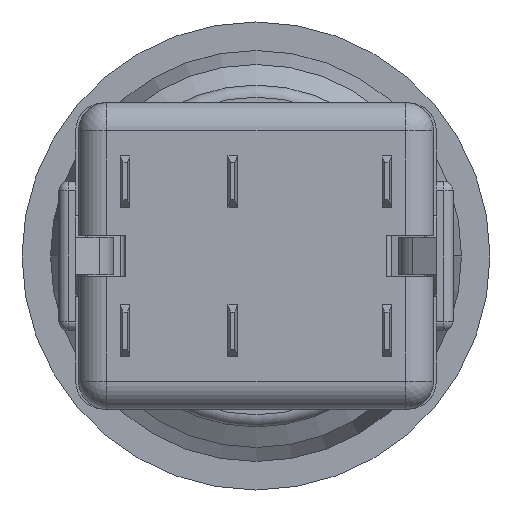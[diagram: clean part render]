
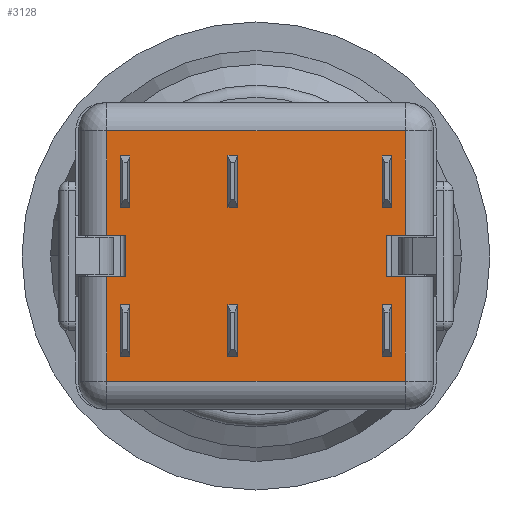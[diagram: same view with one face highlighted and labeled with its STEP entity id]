
A CAD part, front view. The second image highlights one B-rep face of the part: STEP entity #3128.
In plain terms, the highlighted planar face has unit normal (0, -1, 0).
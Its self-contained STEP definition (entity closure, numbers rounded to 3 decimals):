
#39=DIRECTION('',(1.,0.,0.));
#40=VECTOR('',#39,1.);
#41=CARTESIAN_POINT('',(0.,-24.8,-9.1));
#42=LINE('',#41,#40);
#43=DIRECTION('',(0.,0.,1.));
#44=VECTOR('',#43,2.2);
#45=CARTESIAN_POINT('',(1.,-24.8,-9.1));
#46=LINE('',#45,#44);
#47=DIRECTION('',(1.,0.,0.));
#48=VECTOR('',#47,1.);
#49=CARTESIAN_POINT('',(0.,-24.8,-6.9));
#50=LINE('',#49,#48);
#51=DIRECTION('',(-1.,0.,0.));
#52=VECTOR('',#51,16.);
#53=CARTESIAN_POINT('',(16.,-24.8,-1.3));
#54=LINE('',#53,#52);
#55=DIRECTION('',(-1.,0.,0.));
#56=VECTOR('',#55,1.);
#57=CARTESIAN_POINT('',(16.,-24.8,-6.9));
#58=LINE('',#57,#56);
#59=DIRECTION('',(0.,0.,1.));
#60=VECTOR('',#59,2.2);
#61=CARTESIAN_POINT('',(15.,-24.8,-9.1));
#62=LINE('',#61,#60);
#63=DIRECTION('',(-1.,0.,0.));
#64=VECTOR('',#63,1.);
#65=CARTESIAN_POINT('',(16.,-24.8,-9.1));
#66=LINE('',#65,#64);
#67=DIRECTION('',(1.,0.,0.));
#68=VECTOR('',#67,16.);
#69=CARTESIAN_POINT('',(0.,-24.8,-14.7));
#70=LINE('',#69,#68);
#71=DIRECTION('',(1.,0.,0.));
#72=VECTOR('',#71,0.5);
#73=CARTESIAN_POINT('',(0.75,-24.8,-5.4));
#74=LINE('',#73,#72);
#75=DIRECTION('',(0.,0.,1.));
#76=VECTOR('',#75,2.8);
#77=CARTESIAN_POINT('',(1.25,-24.8,-5.4));
#78=LINE('',#77,#76);
#79=DIRECTION('',(1.,0.,0.));
#80=VECTOR('',#79,0.5);
#81=CARTESIAN_POINT('',(0.75,-24.8,-2.6));
#82=LINE('',#81,#80);
#83=DIRECTION('',(0.,0.,1.));
#84=VECTOR('',#83,2.8);
#85=CARTESIAN_POINT('',(0.75,-24.8,-5.4));
#86=LINE('',#85,#84);
#87=DIRECTION('',(1.,0.,0.));
#88=VECTOR('',#87,0.5);
#89=CARTESIAN_POINT('',(0.75,-24.8,-13.4));
#90=LINE('',#89,#88);
#91=DIRECTION('',(0.,0.,1.));
#92=VECTOR('',#91,2.8);
#93=CARTESIAN_POINT('',(1.25,-24.8,-13.4));
#94=LINE('',#93,#92);
#95=DIRECTION('',(1.,0.,0.));
#96=VECTOR('',#95,0.5);
#97=CARTESIAN_POINT('',(0.75,-24.8,-10.6));
#98=LINE('',#97,#96);
#99=DIRECTION('',(0.,0.,1.));
#100=VECTOR('',#99,2.8);
#101=CARTESIAN_POINT('',(0.75,-24.8,-13.4));
#102=LINE('',#101,#100);
#103=DIRECTION('',(1.,0.,0.));
#104=VECTOR('',#103,0.5);
#105=CARTESIAN_POINT('',(6.5,-24.8,-5.4));
#106=LINE('',#105,#104);
#107=DIRECTION('',(0.,0.,1.));
#108=VECTOR('',#107,2.8);
#109=CARTESIAN_POINT('',(7.,-24.8,-5.4));
#110=LINE('',#109,#108);
#111=DIRECTION('',(1.,0.,0.));
#112=VECTOR('',#111,0.5);
#113=CARTESIAN_POINT('',(6.5,-24.8,-2.6));
#114=LINE('',#113,#112);
#115=DIRECTION('',(0.,0.,1.));
#116=VECTOR('',#115,2.8);
#117=CARTESIAN_POINT('',(6.5,-24.8,-5.4));
#118=LINE('',#117,#116);
#119=DIRECTION('',(1.,0.,0.));
#120=VECTOR('',#119,0.5);
#121=CARTESIAN_POINT('',(6.5,-24.8,-13.4));
#122=LINE('',#121,#120);
#123=DIRECTION('',(0.,0.,1.));
#124=VECTOR('',#123,2.8);
#125=CARTESIAN_POINT('',(7.,-24.8,-13.4));
#126=LINE('',#125,#124);
#127=DIRECTION('',(1.,0.,0.));
#128=VECTOR('',#127,0.5);
#129=CARTESIAN_POINT('',(6.5,-24.8,-10.6));
#130=LINE('',#129,#128);
#131=DIRECTION('',(0.,0.,1.));
#132=VECTOR('',#131,2.8);
#133=CARTESIAN_POINT('',(6.5,-24.8,-13.4));
#134=LINE('',#133,#132);
#135=DIRECTION('',(-1.,0.,0.));
#136=VECTOR('',#135,0.5);
#137=CARTESIAN_POINT('',(15.25,-24.8,-5.4));
#138=LINE('',#137,#136);
#139=DIRECTION('',(0.,0.,1.));
#140=VECTOR('',#139,2.8);
#141=CARTESIAN_POINT('',(15.25,-24.8,-5.4));
#142=LINE('',#141,#140);
#143=DIRECTION('',(-1.,0.,0.));
#144=VECTOR('',#143,0.5);
#145=CARTESIAN_POINT('',(15.25,-24.8,-2.6));
#146=LINE('',#145,#144);
#147=DIRECTION('',(0.,0.,1.));
#148=VECTOR('',#147,2.8);
#149=CARTESIAN_POINT('',(14.75,-24.8,-5.4));
#150=LINE('',#149,#148);
#151=DIRECTION('',(-1.,0.,0.));
#152=VECTOR('',#151,0.5);
#153=CARTESIAN_POINT('',(15.25,-24.8,-13.4));
#154=LINE('',#153,#152);
#155=DIRECTION('',(0.,0.,1.));
#156=VECTOR('',#155,2.8);
#157=CARTESIAN_POINT('',(15.25,-24.8,-13.4));
#158=LINE('',#157,#156);
#159=DIRECTION('',(-1.,0.,0.));
#160=VECTOR('',#159,0.5);
#161=CARTESIAN_POINT('',(15.25,-24.8,-10.6));
#162=LINE('',#161,#160);
#163=DIRECTION('',(0.,0.,1.));
#164=VECTOR('',#163,2.8);
#165=CARTESIAN_POINT('',(14.75,-24.8,-13.4));
#166=LINE('',#165,#164);
#251=DIRECTION('',(0.,0.,-1.));
#252=VECTOR('',#251,5.6);
#253=CARTESIAN_POINT('',(0.,-24.8,-9.1));
#254=LINE('',#253,#252);
#411=DIRECTION('',(0.,0.,1.));
#412=VECTOR('',#411,5.6);
#413=CARTESIAN_POINT('',(16.,-24.8,-14.7));
#414=LINE('',#413,#412);
#475=DIRECTION('',(0.,0.,1.));
#476=VECTOR('',#475,5.6);
#477=CARTESIAN_POINT('',(16.,-24.8,-6.9));
#478=LINE('',#477,#476);
#547=DIRECTION('',(0.,0.,-1.));
#548=VECTOR('',#547,5.6);
#549=CARTESIAN_POINT('',(0.,-24.8,-1.3));
#550=LINE('',#549,#548);
#2393=CARTESIAN_POINT('',(0.,-24.8,-14.7));
#2394=CARTESIAN_POINT('',(16.,-24.8,-14.7));
#2395=VERTEX_POINT('',#2393);
#2396=VERTEX_POINT('',#2394);
#2409=CARTESIAN_POINT('',(16.,-24.8,-1.3));
#2410=CARTESIAN_POINT('',(0.,-24.8,-1.3));
#2411=VERTEX_POINT('',#2409);
#2412=VERTEX_POINT('',#2410);
#2427=CARTESIAN_POINT('',(16.,-24.8,-9.1));
#2428=CARTESIAN_POINT('',(15.,-24.8,-9.1));
#2429=VERTEX_POINT('',#2427);
#2430=VERTEX_POINT('',#2428);
#2431=CARTESIAN_POINT('',(16.,-24.8,-6.9));
#2432=CARTESIAN_POINT('',(15.,-24.8,-6.9));
#2433=VERTEX_POINT('',#2431);
#2434=VERTEX_POINT('',#2432);
#2449=CARTESIAN_POINT('',(1.,-24.8,-9.1));
#2450=VERTEX_POINT('',#2449);
#2453=CARTESIAN_POINT('',(1.,-24.8,-6.9));
#2454=VERTEX_POINT('',#2453);
#2455=CARTESIAN_POINT('',(0.,-24.8,-9.1));
#2456=VERTEX_POINT('',#2455);
#2457=CARTESIAN_POINT('',(0.,-24.8,-6.9));
#2458=VERTEX_POINT('',#2457);
#2727=CARTESIAN_POINT('',(0.75,-24.8,-5.4));
#2728=CARTESIAN_POINT('',(1.25,-24.8,-5.4));
#2729=VERTEX_POINT('',#2727);
#2730=VERTEX_POINT('',#2728);
#2731=CARTESIAN_POINT('',(0.75,-24.8,-2.6));
#2732=CARTESIAN_POINT('',(1.25,-24.8,-2.6));
#2733=VERTEX_POINT('',#2731);
#2734=VERTEX_POINT('',#2732);
#2775=CARTESIAN_POINT('',(0.75,-24.8,-13.4));
#2776=CARTESIAN_POINT('',(1.25,-24.8,-13.4));
#2777=VERTEX_POINT('',#2775);
#2778=VERTEX_POINT('',#2776);
#2779=CARTESIAN_POINT('',(0.75,-24.8,-10.6));
#2780=CARTESIAN_POINT('',(1.25,-24.8,-10.6));
#2781=VERTEX_POINT('',#2779);
#2782=VERTEX_POINT('',#2780);
#2823=CARTESIAN_POINT('',(6.5,-24.8,-5.4));
#2824=CARTESIAN_POINT('',(7.,-24.8,-5.4));
#2825=VERTEX_POINT('',#2823);
#2826=VERTEX_POINT('',#2824);
#2827=CARTESIAN_POINT('',(6.5,-24.8,-2.6));
#2828=CARTESIAN_POINT('',(7.,-24.8,-2.6));
#2829=VERTEX_POINT('',#2827);
#2830=VERTEX_POINT('',#2828);
#2871=CARTESIAN_POINT('',(6.5,-24.8,-13.4));
#2872=CARTESIAN_POINT('',(7.,-24.8,-13.4));
#2873=VERTEX_POINT('',#2871);
#2874=VERTEX_POINT('',#2872);
#2875=CARTESIAN_POINT('',(6.5,-24.8,-10.6));
#2876=CARTESIAN_POINT('',(7.,-24.8,-10.6));
#2877=VERTEX_POINT('',#2875);
#2878=VERTEX_POINT('',#2876);
#2919=CARTESIAN_POINT('',(15.25,-24.8,-5.4));
#2920=CARTESIAN_POINT('',(14.75,-24.8,-5.4));
#2921=VERTEX_POINT('',#2919);
#2922=VERTEX_POINT('',#2920);
#2923=CARTESIAN_POINT('',(15.25,-24.8,-2.6));
#2924=CARTESIAN_POINT('',(14.75,-24.8,-2.6));
#2925=VERTEX_POINT('',#2923);
#2926=VERTEX_POINT('',#2924);
#2967=CARTESIAN_POINT('',(15.25,-24.8,-13.4));
#2968=CARTESIAN_POINT('',(14.75,-24.8,-13.4));
#2969=VERTEX_POINT('',#2967);
#2970=VERTEX_POINT('',#2968);
#2971=CARTESIAN_POINT('',(15.25,-24.8,-10.6));
#2972=CARTESIAN_POINT('',(14.75,-24.8,-10.6));
#2973=VERTEX_POINT('',#2971);
#2974=VERTEX_POINT('',#2972);
#3038=CARTESIAN_POINT('',(8.,-24.8,-8.));
#3039=DIRECTION('',(0.,1.,0.));
#3040=DIRECTION('',(1.,0.,0.));
#3041=AXIS2_PLACEMENT_3D('',#3038,#3039,#3040);
#3042=PLANE('',#3041);
#3044=ORIENTED_EDGE('',*,*,#3043,.T.);
#3046=ORIENTED_EDGE('',*,*,#3045,.T.);
#3048=ORIENTED_EDGE('',*,*,#3047,.F.);
#3050=ORIENTED_EDGE('',*,*,#3049,.F.);
#3052=ORIENTED_EDGE('',*,*,#3051,.F.);
#3054=ORIENTED_EDGE('',*,*,#3053,.F.);
#3056=ORIENTED_EDGE('',*,*,#3055,.T.);
#3058=ORIENTED_EDGE('',*,*,#3057,.F.);
#3060=ORIENTED_EDGE('',*,*,#3059,.F.);
#3062=ORIENTED_EDGE('',*,*,#3061,.F.);
#3064=ORIENTED_EDGE('',*,*,#3063,.F.);
#3066=ORIENTED_EDGE('',*,*,#3065,.F.);
#3067=EDGE_LOOP('',(#3044,#3046,#3048,#3050,#3052,#3054,#3056,#3058,#3060,#3062,
#3064,#3066));
#3068=FACE_OUTER_BOUND('',#3067,.F.);
#3070=ORIENTED_EDGE('',*,*,#3069,.T.);
#3072=ORIENTED_EDGE('',*,*,#3071,.T.);
#3074=ORIENTED_EDGE('',*,*,#3073,.F.);
#3076=ORIENTED_EDGE('',*,*,#3075,.F.);
#3077=EDGE_LOOP('',(#3070,#3072,#3074,#3076));
#3078=FACE_BOUND('',#3077,.F.);
#3080=ORIENTED_EDGE('',*,*,#3079,.T.);
#3081=ORIENTED_EDGE('',*,*,#3015,.T.);
#3083=ORIENTED_EDGE('',*,*,#3082,.F.);
#3085=ORIENTED_EDGE('',*,*,#3084,.F.);
#3086=EDGE_LOOP('',(#3080,#3081,#3083,#3085));
#3087=FACE_BOUND('',#3086,.F.);
#3089=ORIENTED_EDGE('',*,*,#3088,.T.);
#3091=ORIENTED_EDGE('',*,*,#3090,.T.);
#3093=ORIENTED_EDGE('',*,*,#3092,.F.);
#3095=ORIENTED_EDGE('',*,*,#3094,.F.);
#3096=EDGE_LOOP('',(#3089,#3091,#3093,#3095));
#3097=FACE_BOUND('',#3096,.F.);
#3099=ORIENTED_EDGE('',*,*,#3098,.T.);
#3101=ORIENTED_EDGE('',*,*,#3100,.T.);
#3103=ORIENTED_EDGE('',*,*,#3102,.F.);
#3105=ORIENTED_EDGE('',*,*,#3104,.F.);
#3106=EDGE_LOOP('',(#3099,#3101,#3103,#3105));
#3107=FACE_BOUND('',#3106,.F.);
#3109=ORIENTED_EDGE('',*,*,#3108,.F.);
#3111=ORIENTED_EDGE('',*,*,#3110,.T.);
#3113=ORIENTED_EDGE('',*,*,#3112,.T.);
#3115=ORIENTED_EDGE('',*,*,#3114,.F.);
#3116=EDGE_LOOP('',(#3109,#3111,#3113,#3115));
#3117=FACE_BOUND('',#3116,.F.);
#3119=ORIENTED_EDGE('',*,*,#3118,.F.);
#3121=ORIENTED_EDGE('',*,*,#3120,.T.);
#3123=ORIENTED_EDGE('',*,*,#3122,.T.);
#3125=ORIENTED_EDGE('',*,*,#3124,.F.);
#3126=EDGE_LOOP('',(#3119,#3121,#3123,#3125));
#3127=FACE_BOUND('',#3126,.F.);
#3128=ADVANCED_FACE('',(#3068,#3078,#3087,#3097,#3107,#3117,#3127),#3042,.F.);
#3015=EDGE_CURVE('',#2778,#2782,#94,.T.);
#3043=EDGE_CURVE('',#2456,#2450,#42,.T.);
#3045=EDGE_CURVE('',#2450,#2454,#46,.T.);
#3047=EDGE_CURVE('',#2458,#2454,#50,.T.);
#3049=EDGE_CURVE('',#2412,#2458,#550,.T.);
#3051=EDGE_CURVE('',#2411,#2412,#54,.T.);
#3053=EDGE_CURVE('',#2433,#2411,#478,.T.);
#3055=EDGE_CURVE('',#2433,#2434,#58,.T.);
#3057=EDGE_CURVE('',#2430,#2434,#62,.T.);
#3059=EDGE_CURVE('',#2429,#2430,#66,.T.);
#3061=EDGE_CURVE('',#2396,#2429,#414,.T.);
#3063=EDGE_CURVE('',#2395,#2396,#70,.T.);
#3065=EDGE_CURVE('',#2456,#2395,#254,.T.);
#3069=EDGE_CURVE('',#2729,#2730,#74,.T.);
#3071=EDGE_CURVE('',#2730,#2734,#78,.T.);
#3073=EDGE_CURVE('',#2733,#2734,#82,.T.);
#3075=EDGE_CURVE('',#2729,#2733,#86,.T.);
#3079=EDGE_CURVE('',#2777,#2778,#90,.T.);
#3082=EDGE_CURVE('',#2781,#2782,#98,.T.);
#3084=EDGE_CURVE('',#2777,#2781,#102,.T.);
#3088=EDGE_CURVE('',#2825,#2826,#106,.T.);
#3090=EDGE_CURVE('',#2826,#2830,#110,.T.);
#3092=EDGE_CURVE('',#2829,#2830,#114,.T.);
#3094=EDGE_CURVE('',#2825,#2829,#118,.T.);
#3098=EDGE_CURVE('',#2873,#2874,#122,.T.);
#3100=EDGE_CURVE('',#2874,#2878,#126,.T.);
#3102=EDGE_CURVE('',#2877,#2878,#130,.T.);
#3104=EDGE_CURVE('',#2873,#2877,#134,.T.);
#3108=EDGE_CURVE('',#2921,#2922,#138,.T.);
#3110=EDGE_CURVE('',#2921,#2925,#142,.T.);
#3112=EDGE_CURVE('',#2925,#2926,#146,.T.);
#3114=EDGE_CURVE('',#2922,#2926,#150,.T.);
#3118=EDGE_CURVE('',#2969,#2970,#154,.T.);
#3120=EDGE_CURVE('',#2969,#2973,#158,.T.);
#3122=EDGE_CURVE('',#2973,#2974,#162,.T.);
#3124=EDGE_CURVE('',#2970,#2974,#166,.T.);
